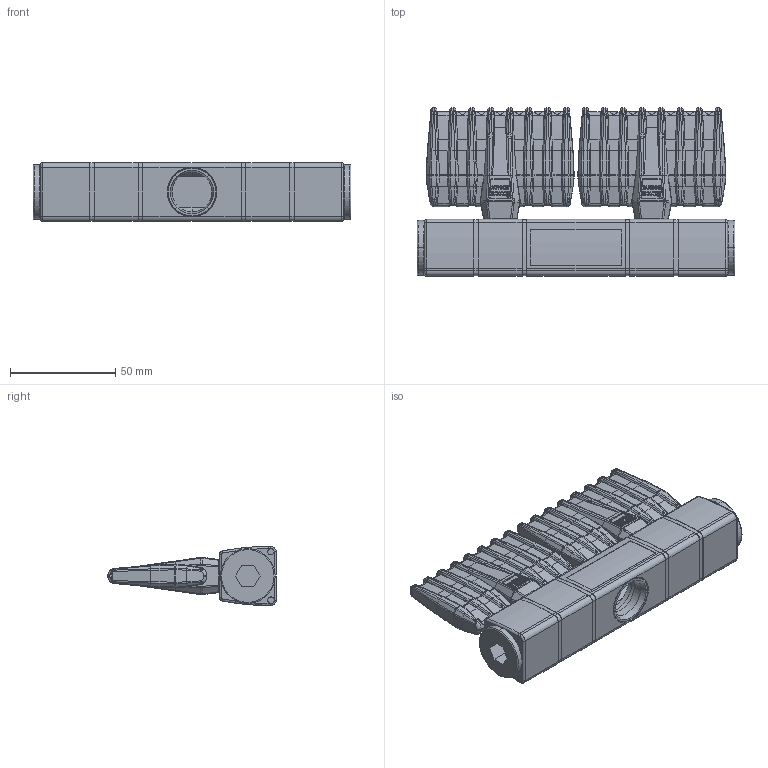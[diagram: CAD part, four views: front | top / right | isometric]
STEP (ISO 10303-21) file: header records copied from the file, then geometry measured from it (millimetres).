
FILE_DESCRIPTION (( 'STEP AP214' ), '1' );
FILE_NAME ('Silvent 310 Z+.STEP', '2013-12-13T13:49:23', ( '' ), ( '' ), 'SwSTEP 2.0', 'SolidWorks 2013', '' );
FILE_SCHEMA (( 'AUTOMOTIVE_DESIGN' ));
Length unit declared in the file: millimetre
Products named in the file (1): Silvent 310 Z+
Bounding box: 151 x 79.99 x 28.01 mm (x, y, z)
Surface area: 46720.8 mm2 (no closed solid volume)
Topology: 0 solids, 23 shells, 4002 faces, 10347 edges, 6186 vertices
Faces by surface type: bspline 1486, cylinder 1180, plane 1148, sphere 64, cone 62, torus 62
Entity records: 187234 total; most frequent: CARTESIAN_POINT 62362, ORIENTED_EDGE 19124, DIRECTION 12995, EDGE_CURVE 10297, VERTEX_POINT 6186, AXIS2_PLACEMENT_3D 4561, EDGE_LOOP 4098, UNCERTAINTY_MEASURE_WITH_UNIT 4006
